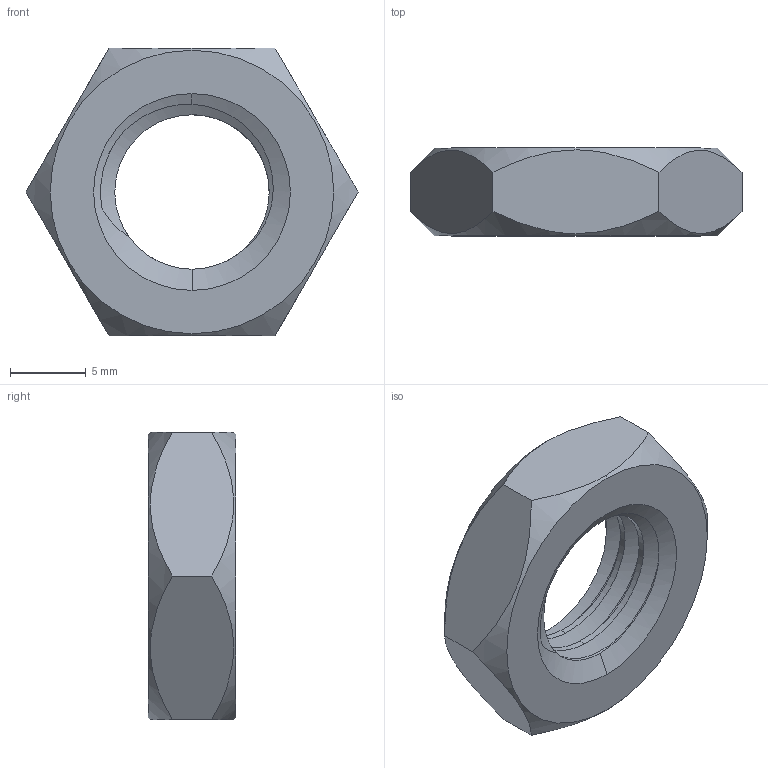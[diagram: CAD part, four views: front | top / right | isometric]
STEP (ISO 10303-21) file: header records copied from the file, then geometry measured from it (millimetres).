
FILE_DESCRIPTION (( 'STEP AP203' ), '1' );
FILE_NAME ('TANM-304-M12.STEP', '2026-08-25T09:23:01', ( '' ), ( '' ), 'SwSTEP 2.0', 'SolidWorks 2020', '' );
FILE_SCHEMA (( 'CONFIG_CONTROL_DESIGN' ));
Length unit declared in the file: millimetre
Products named in the file (1): TANM-304-M12
Bounding box: 21.94 x 5.8 x 19 mm (x, y, z)
Volume: 1205 mm3; surface area: 1049.6 mm2
Topology: 1 solids, 1 shells, 26 faces, 71 edges, 47 vertices
Faces by surface type: cone 8, plane 8, cylinder 7, bspline 3
Entity records: 1994 total; most frequent: CARTESIAN_POINT 1347, ORIENTED_EDGE 142, DIRECTION 90, EDGE_CURVE 71, VERTEX_POINT 47, AXIS2_PLACEMENT_3D 35, EDGE_LOOP 28, ADVANCED_FACE 26
